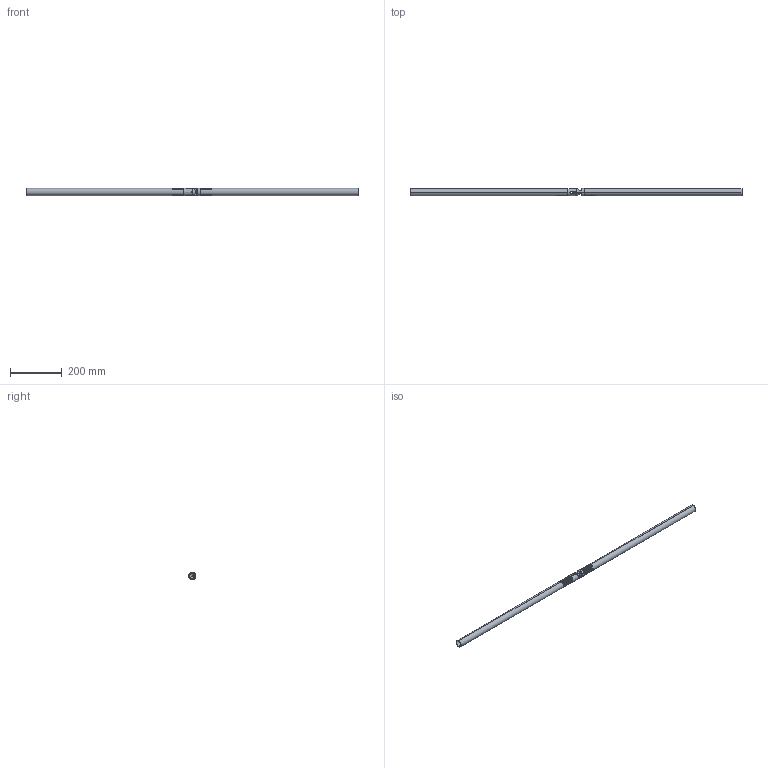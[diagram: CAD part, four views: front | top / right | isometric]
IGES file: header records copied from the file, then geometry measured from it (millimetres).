
Start section: SolidWorks IGES file using analytic representation for surfaces
Global section: file name: \\SERVER3\Design\_NEWDE~1\_DESIG~1\AAI\MODULA~1\SOLIDW~1\DEMONS~1\25DBF2~1.ASS\MODULA~1\34EB7~1.ANG\ANGULA~2\Male to Female.IGS; native system: SolidWorks 2013; preprocessor: SolidWorks 2013; author: tbraun; date: 130819.115703; units: inch
Bounding box: 1280.97 x 30.47 x 28.57 mm (x, y, z)
Surface area: 230866.6 mm2 (no closed solid volume)
Topology: 0 solids, 0 shells, 670 faces, 8705 edges, 8700 vertices
Faces by surface type: revolution 410, bspline 260
